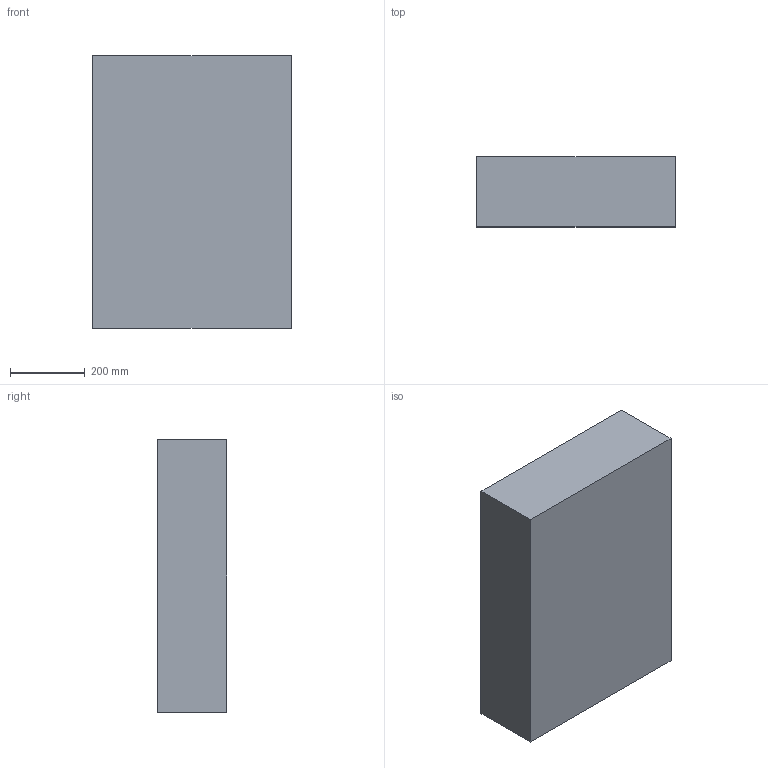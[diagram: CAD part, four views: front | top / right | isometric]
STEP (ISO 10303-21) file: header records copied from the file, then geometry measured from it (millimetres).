
FILE_DESCRIPTION((''),'2;1');
FILE_NAME('AIRFLOWBLANK_ORV3_4OU_SHORT','2021-12-07T23:24:42',('dmshapir'),('FACEBOOK, INC'),'CREO PARAMETRIC BY PTC INC, 2020454','CREO PARAMETRIC BY PTC INC, 2020454','');
FILE_SCHEMA(('AUTOMOTIVE_DESIGN { 1 0 10303 214 1 1 1 1 }'));
Length unit declared in the file: millimetre
Products named in the file (1): AIRFLOWBLANK_ORV3_4OU_SHORT
Bounding box: 534 x 187.15 x 730.6 mm (x, y, z)
Volume: 73014775.9 mm3; surface area: 1253620.6 mm2
Topology: 1 solids, 1 shells, 6 faces, 517 edges, 513 vertices
Faces by surface type: plane 6
Entity records: 5461 total; most frequent: CARTESIAN_POINT 922, PRESENTATION_STYLE_ASSIGNMENT 522, STYLED_ITEM 522, CURVE_STYLE 521, COMPOSITE_CURVE_SEGMENT 505, DIRECTION 435, VECTOR 392, LINE 392
